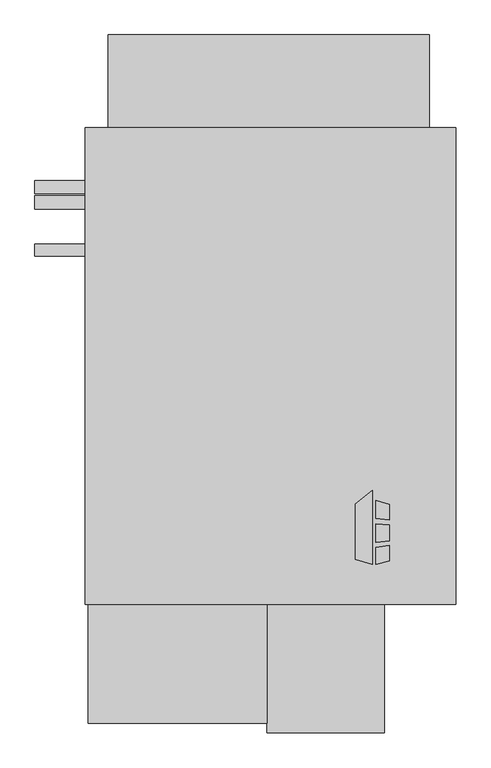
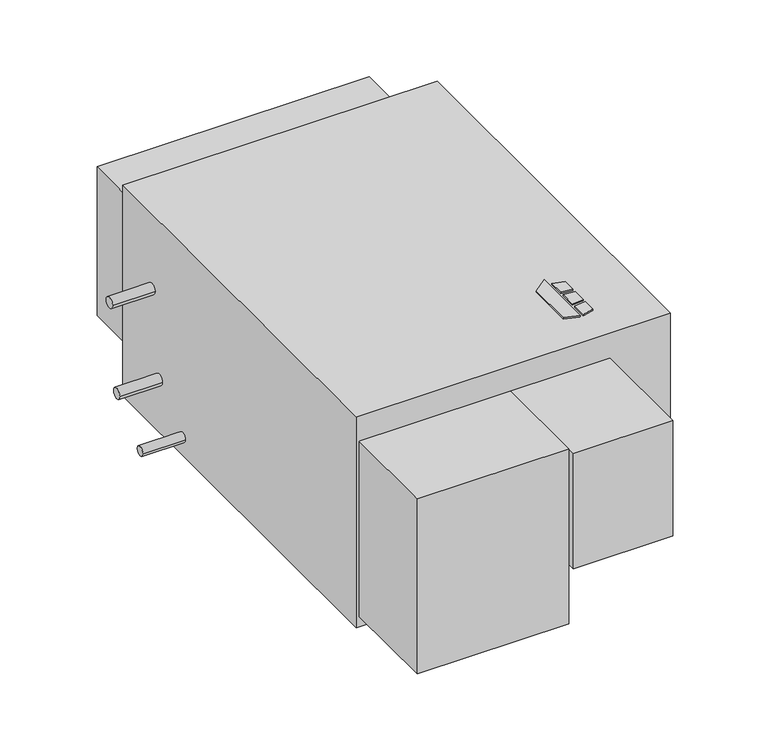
"""IFC4 building model written with IfcOpenShell, lengths in millimetres: proxy geometry, Horizontal_Direct_Drive_Blower_Coil_Unit_-_HDY_-_IEC_-_2-Pipe_Cool-EHeat_LH_2022 : Size 06 - 460v/60Hz/3Ph - 8 Row 6.0kW LH."""

from ifc_helpers import new_model, si_unit, point, frame, frame_2d, origin, origin_with_axes, place, context, project, spatial, polyline, circle_curve, trimmed, segment, composite_curve, outline, extrude, source, transform, mapped, element, save


def mechanical_equipment_8757fcb0(model_context):
    return source(origin(), model_context, "Body", "SweptSolid", [
        extrude(outline(polyline([(-547.9980239, -229.5578476), (-515.4397272, -204.1205184), (-515.4397272, -346.075), (-547.9980239, -335.8554201), (-547.9980239, -229.5578476)])), origin_with_axes(), (0.0, 0.0, 1.0), 3.175),
        extrude(outline(polyline([(-508.6813942, -257.429852), (-508.6813942, -222.9499379), (-482.6, -231.1365115), (-482.6, -260.6322446), (-508.6813942, -257.429852)])), origin_with_axes(), (0.0, 0.0, 1.0), 3.175),
        extrude(outline(polyline([(-482.6, -339.0865115), (-508.6813942, -346.075), (-508.6813942, -312.8536996), (-482.6, -309.3118564), (-482.6, -339.0865115)])), origin_with_axes(), (0.0, 0.0, 1.0), 3.175),
        extrude(outline(polyline([(-482.6, -269.7138277), (-482.6, -300.963983), (-508.6813942, -303.705248), (-508.6813942, -267.8475378), (-482.6, -269.7138277)])), origin_with_axes(), (0.0, 0.0, 1.0), 3.175),
        extrude(outline(composite_curve([segment(trimmed(circle_curve(frame_2d((377.825, -177.8)), 12.7), [point((365.125, -177.8))], [point((390.525, -177.8))], False, "CARTESIAN"), True, "CONTINUOUS"), segment(trimmed(circle_curve(frame_2d((377.825, -177.8)), 12.7), [point((390.525, -177.8))], [point((365.125, -177.8))], False, "CARTESIAN"), True, "CONTINUOUS")], self_intersect=False)), frame((-1163.1025559, 0.0, 0.0), z_axis=(1.0, 0.0, 0.0), x_axis=(0.0, 1.0, 0.0)), (0.0, 0.0, 1.0), 96.3025559),
        extrude(outline(composite_curve([segment(trimmed(circle_curve(frame_2d((348.9715397, -377.8058174)), 12.7), [point((336.2715397, -377.8058174))], [point((361.6715397, -377.8058174))], False, "CARTESIAN"), True, "CONTINUOUS"), segment(trimmed(circle_curve(frame_2d((348.9715397, -377.8058174)), 12.7), [point((361.6715397, -377.8058174))], [point((336.2715397, -377.8058174))], False, "CARTESIAN"), True, "CONTINUOUS")], self_intersect=False)), frame((-1163.1025559, 0.0, 0.0), z_axis=(1.0, 0.0, 0.0), x_axis=(0.0, 1.0, 0.0)), (0.0, 0.0, 1.0), 96.3025559),
        extrude(outline(composite_curve([segment(trimmed(circle_curve(frame_2d((257.175, -460.3558174)), 11.1125), [point((246.0625, -460.3558174))], [point((268.2875, -460.3558174))], False, "CARTESIAN"), True, "CONTINUOUS"), segment(trimmed(circle_curve(frame_2d((257.175, -460.3558174)), 11.1125), [point((268.2875, -460.3558174))], [point((246.0625, -460.3558174))], False, "CARTESIAN"), True, "CONTINUOUS")], self_intersect=False)), frame((-1163.1025559, 0.0, 0.0), z_axis=(1.0, 0.0, 0.0), x_axis=(0.0, 1.0, 0.0)), (0.0, 0.0, 1.0), 96.3025559),
        extrude(outline(polyline([(-355.6, 492.125), (-355.6, -422.275), (-1066.8, -422.275), (-1066.8, 492.125), (-355.6, 492.125)])), frame((0.0, 0.0, -504.8058174), z_axis=(0.0, 0.0, 1.0), x_axis=(1.0, 0.0, 0.0)), (0.0, 0.0, 1.0), 504.8058174),
        extrude(outline(polyline([(-717.55, -650.875), (-1060.45, -650.875), (-1060.45, -422.275), (-717.55, -422.275), (-717.55, -650.875)])), frame((0.0, 0.0, -479.4058174), z_axis=(0.0, 0.0, 1.0), x_axis=(1.0, 0.0, 0.0)), (0.0, 0.0, 1.0), 419.1),
        extrude(outline(polyline([(-1022.35, 669.925), (-406.4, 669.925), (-406.4, 492.125), (-1022.35, 492.125), (-1022.35, 669.925)])), frame((0.0, 0.0, -434.9558174), z_axis=(0.0, 0.0, 1.0), x_axis=(1.0, 0.0, 0.0)), (0.0, 0.0, 1.0), 355.6),
        extrude(outline(polyline([(-492.125, -668.3375), (-717.55, -668.3375), (-717.55, -422.275), (-492.125, -422.275), (-492.125, -668.3375)])), frame((0.0, 0.0, -336.5308174), z_axis=(0.0, 0.0, 1.0), x_axis=(1.0, 0.0, 0.0)), (0.0, 0.0, 1.0), 276.225),
    ])


if __name__ == "__main__":
    model = new_model("IFC4")
    model_context = context("Model", 3, world=origin())
    ifc_project = project(units=[si_unit("LENGTHUNIT", "METRE", prefix="MILLI")], contexts=[model_context])
    site = spatial("IfcSite", under=ifc_project)
    building = spatial("IfcBuilding", under=site)
    placement = place(None, origin())
    mechanical_equipment_shape = mechanical_equipment_8757fcb0(model_context)
    element("IfcBuildingElementProxy", 1, Name="Horizontal_Direct_Drive_Blower_Coil_Unit_-_HDY_-_IEC_-_2-Pipe_Cool-EHeat_LH_2022 : Size 06 - 460v/60Hz/3Ph - 8 Row 6.0kW LH", ObjectType="Horizontal_Direct_Drive_Blower_Coil_Unit_-_HDY_-_IEC_-_2-Pipe_Cool-EHeat_LH_2022 : Size 06 - 460v/60Hz/3Ph - 8 Row 6.0kW LH", at=placement, inside=building, context=model_context, shape_type="MappedRepresentation", body=[
        mapped(mechanical_equipment_shape, transform((0.0, 0.0, 0.0), x_axis=(1.0, 0.0, 0.0), y_axis=(0.0, 1.0, 0.0), z_axis=(0.0, 0.0, 1.0))),
    ])
    save(model, "model.ifc")
